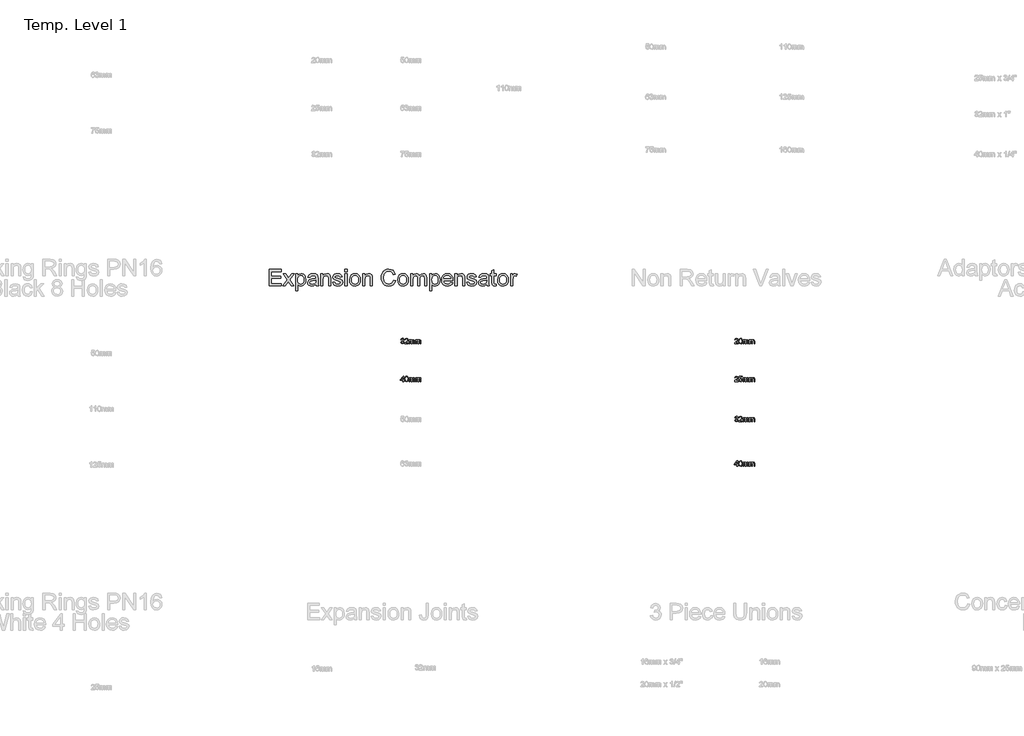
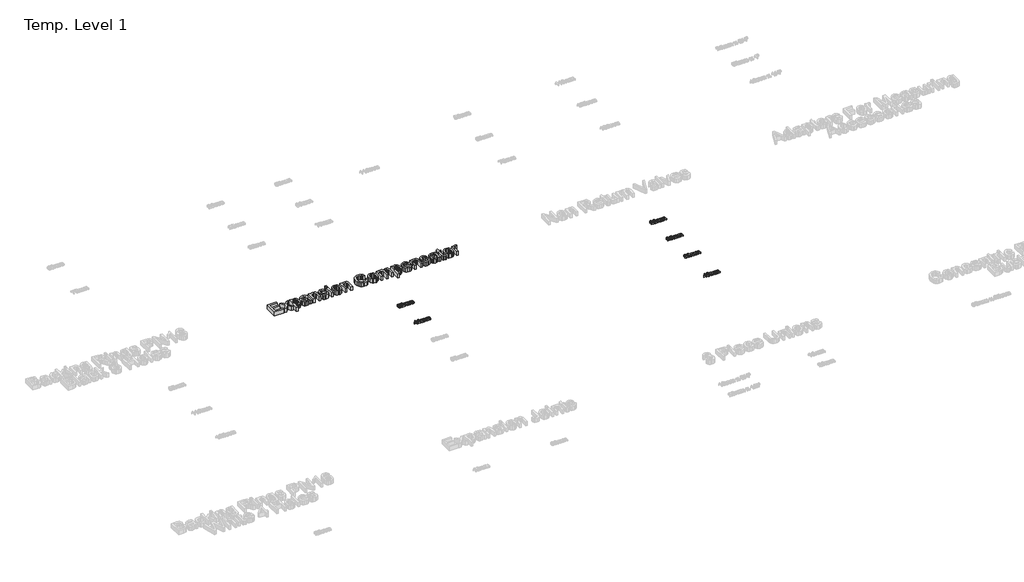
# One storey, part 16 of 62: 7 proxies.
"""IFC4 building model written with IfcOpenShell, lengths in millimetres."""

from ifc_helpers import new_model, si_unit, origin, origin_with_axes, place, context, project, spatial, polyline, outline, extrude, element, save

model = new_model("IFC4")

# Units and contexts
model_context = context("Model", 3, world=origin())
ifc_project = project(units=[si_unit("LENGTHUNIT", "METRE", prefix="MILLI")], contexts=[model_context])

# Site, building, storey
site = spatial("IfcSite", under=ifc_project)
building = spatial("IfcBuilding", under=site)
storey = spatial("IfcBuildingStorey", under=building, Name="Temp. Level 1", Elevation=0.0)

# Proxies
placement = place(None, origin())
element("IfcBuildingElementProxy", 1, Name="150mm Arial", ObjectType="150mm Arial", at=placement, inside=storey, context=model_context, shape_type="SweptSolid", body=[
    extrude(outline(polyline([(11314.9637904, -1070.198517), (11314.9637904, -922.5062093), (11421.1176365, -922.5062093), (11421.1176365, -940.9677478), (11333.4253288, -940.9677478), (11333.4253288, -984.8139016), (11416.5022519, -984.8139016), (11416.5022519, -1003.2754401), (11333.4253288, -1003.2754401), (11333.4253288, -1051.7369786), (11423.4253288, -1051.7369786), (11423.4253288, -1070.198517), (11314.9637904, -1070.198517)])), origin_with_axes(), (0.0, 0.0, 1.0), 50.0),
    extrude(outline(polyline([(11437.2714827, -1070.198517), (11476.7185981, -1015.6792862), (11439.579175, -961.7369786), (11461.7907135, -961.7369786), (11479.7113865, -987.698517), (11488.0767712, -999.9581324), (11495.3243673, -989.9340939), (11515.7330212, -961.7369786), (11537.9445596, -961.7369786), (11498.9301365, -1015.6792862), (11536.5022519, -1070.198517), (11514.2907135, -1070.198517), (11491.6825404, -1037.4220747), (11487.5359058, -1031.4364978), (11459.4830212, -1070.198517), (11437.2714827, -1070.198517)])), origin_with_axes(), (0.0, 0.0, 1.0), 50.0),
    extrude(outline(polyline([(11552.6560981, -1111.7369786), (11552.6560981, -961.7369786), (11571.1176365, -961.7369786), (11571.1176365, -979.8379401), (11583.8820596, -964.5314497), (11601.1176365, -959.4292862), (11613.6026125, -961.214142), (11624.5190788, -966.5687093), (11633.4073, -975.1684689), (11639.8075404, -986.6889016), (11644.9637904, -1015.1384209), (11643.5079611, -1030.9271829), (11639.1404731, -1045.0482766), (11632.00105, -1056.7850555), (11622.2294154, -1065.4208728), (11610.8487063, -1070.7348752), (11598.8820596, -1072.5062093), (11582.8183577, -1067.7646228), (11571.1176365, -1055.7754401), (11571.1176365, -1111.7369786), (11552.6560981, -1111.7369786)]), holes=[polyline([(11571.1176365, -1016.8331324), (11573.1143313, -1033.3836132), (11579.1044154, -1044.9581324), (11587.9430572, -1051.7730362), (11598.485425, -1054.0446709), (11609.1990668, -1051.6919064), (11618.2630692, -1044.6336132), (11624.4424563, -1032.6354161), (11626.5022519, -1015.4629401), (11624.4920356, -999.0026036), (11618.4613865, -987.2658247), (11609.6362663, -980.2345747), (11599.2426365, -977.8908247), (11588.8084418, -980.3833127), (11579.6452808, -987.8607766), (11573.2495476, -1000.0888415), (11571.1176365, -1016.8331324)])]), origin_with_axes(), (0.0, 0.0, 1.0), 50.0),
    extrude(outline(polyline([(11734.9637904, -1056.3523632), (11717.0611462, -1068.8643824), (11697.2835019, -1072.5062093), (11681.8553168, -1070.3157045), (11670.4746077, -1063.7441901), (11663.4568793, -1053.7652237), (11661.1176365, -1041.3523632), (11664.6512904, -1026.7489978), (11673.9361462, -1016.1480362), (11686.8628288, -1010.0903439), (11702.8363865, -1007.3139016), (11734.8556173, -1000.9677478), (11734.9637904, -996.8571709), (11733.6927567, -988.6179882), (11729.8796558, -983.2273632), (11721.3520115, -979.2249593), (11709.4710019, -977.8908247), (11690.7931173, -981.4425074), (11681.8868673, -994.0446709), (11663.4253288, -991.7369786), (11671.4121077, -973.7081324), (11687.4938385, -963.1432286), (11711.8508096, -959.4292862), (11734.2246077, -962.7105362), (11746.8628288, -970.9497189), (11752.5238865, -983.479767), (11753.4253288, -999.6336132), (11753.4253288, -1022.6023632), (11754.3628288, -1054.6756805), (11758.0407135, -1070.198517), (11739.579175, -1070.198517), (11734.9637904, -1056.3523632)]), holes=[polyline([(11734.9637904, -1019.4292862), (11705.1801365, -1025.0903439), (11689.2967231, -1028.0831324), (11682.1032135, -1032.9509209), (11679.579175, -1040.0542862), (11685.0779731, -1050.042267), (11701.2137904, -1054.0446709), (11719.891675, -1049.6276036), (11731.9349442, -1038.9364978), (11734.8556173, -1024.6576516), (11734.9637904, -1019.4292862)])]), origin_with_axes(), (0.0, 0.0, 1.0), 50.0),
    extrude(outline(polyline([(11778.8099442, -1070.198517), (11778.8099442, -961.7369786), (11797.2714827, -961.7369786), (11797.2714827, -976.8812093), (11811.3880692, -963.792267), (11830.6609058, -959.4292862), (11848.0948, -962.9449112), (11859.9938385, -972.1756805), (11865.5286942, -985.7514016), (11866.5022519, -1003.5999593), (11866.5022519, -1070.198517), (11848.0407135, -1070.198517), (11848.0407135, -1006.0879401), (11845.9133096, -989.7538055), (11838.3952808, -981.1179882), (11825.7210019, -977.8908247), (11814.9082014, -979.7027237), (11805.6909538, -985.1384209), (11799.3763505, -995.6402237), (11797.2714827, -1012.6504401), (11797.2714827, -1070.198517), (11778.8099442, -1070.198517)])), origin_with_axes(), (0.0, 0.0, 1.0), 50.0),
    extrude(outline(polyline([(11884.9637904, -1037.8908247), (11903.4253288, -1035.5831324), (11906.3369875, -1043.479767), (11911.9710019, -1049.2850555), (11931.5503288, -1054.0446709), (11950.3724442, -1049.6816901), (11956.5022519, -1039.4413055), (11950.3363865, -1031.1480362), (11931.3339827, -1025.8836132), (11903.5335019, -1016.8511612), (11891.4000885, -1006.3042862), (11887.2714827, -991.4124593), (11890.5887904, -977.6564497), (11899.6392712, -967.1456324), (11911.37605, -961.682892), (11927.2594635, -959.4292862), (11949.7234058, -963.0530843), (11964.0022519, -972.8607766), (11970.3484058, -989.4292862), (11951.8868673, -991.7369786), (11944.9457615, -981.5506805), (11928.7017712, -977.8908247), (11911.0335019, -981.3884209), (11905.7330212, -989.5374593), (11907.9325404, -994.9100555), (11914.8195596, -998.9845747), (11930.7210019, -1002.9148632), (11957.8183577, -1011.604767), (11970.4024923, -1021.448517), (11974.9637904, -1037.4941901), (11969.6092231, -1055.1624593), (11954.1585019, -1067.9809689), (11931.297925, -1072.5062093), (11912.6831413, -1070.3247189), (11899.0984058, -1063.7802478), (11890.0298962, -1052.9449112), (11884.9637904, -1037.8908247)])), origin_with_axes(), (0.0, 0.0, 1.0), 50.0),
    extrude(outline(polyline([(11995.7330212, -940.9677478), (11995.7330212, -922.5062093), (12014.1945596, -922.5062093), (12014.1945596, -940.9677478), (11995.7330212, -940.9677478)])), origin_with_axes(), (0.0, 0.0, 1.0), 50.0),
    extrude(outline(polyline([(11995.7330212, -1070.198517), (11995.7330212, -961.7369786), (12014.1945596, -961.7369786), (12014.1945596, -1070.198517), (11995.7330212, -1070.198517)])), origin_with_axes(), (0.0, 0.0, 1.0), 50.0),
    extrude(outline(polyline([(12037.2714827, -1015.9677478), (12041.2648721, -989.8169064), (12053.2450404, -971.4364978), (12068.0467231, -962.4310891), (12085.7690788, -959.4292862), (12105.1636101, -963.0846348), (12120.6548962, -974.0506805), (12130.8096438, -991.4620387), (12134.1945596, -1014.4533247), (12132.6981654, -1033.1041661), (12128.2089827, -1047.3018824), (12120.8577207, -1057.9343944), (12110.7750885, -1065.8896228), (12098.7994274, -1070.8520627), (12085.7690788, -1072.5062093), (12066.1401726, -1068.8643824), (12050.6669154, -1057.9389016), (12040.6203409, -1040.1624593), (12037.2714827, -1015.9677478)]), holes=[polyline([(12055.7330212, -1015.9316901), (12057.8694394, -1032.6399233), (12064.2786942, -1044.5434689), (12073.9241269, -1051.6693704), (12085.7690788, -1054.0446709), (12097.5599442, -1051.6558487), (12107.1873481, -1044.4893824), (12113.5966029, -1032.4280843), (12115.7330212, -1015.354767), (12113.5830813, -999.1333127), (12107.1332615, -987.3920266), (12097.4923361, -980.2661252), (12085.7690788, -977.8908247), (12073.9241269, -980.2571108), (12064.2786942, -987.3559689), (12057.8694394, -999.2324713), (12055.7330212, -1015.9316901)])]), origin_with_axes(), (0.0, 0.0, 1.0), 50.0),
    extrude(outline(polyline([(12154.9637904, -1070.198517), (12154.9637904, -961.7369786), (12173.4253288, -961.7369786), (12173.4253288, -976.8812093), (12187.5419154, -963.792267), (12206.8147519, -959.4292862), (12224.2486462, -962.9449112), (12236.1476846, -972.1756805), (12241.6825404, -985.7514016), (12242.6560981, -1003.5999593), (12242.6560981, -1070.198517), (12224.1945596, -1070.198517), (12224.1945596, -1006.0879401), (12222.0671558, -989.7538055), (12214.5491269, -981.1179882), (12201.8748481, -977.8908247), (12191.0620476, -979.7027237), (12181.8448, -985.1384209), (12175.5301966, -995.6402237), (12173.4253288, -1012.6504401), (12173.4253288, -1070.198517), (12154.9637904, -1070.198517)])), origin_with_axes(), (0.0, 0.0, 1.0), 50.0),
    extrude(outline(polyline([(12431.8868673, -1017.698517), (12450.3484058, -1022.4581324), (12441.829776, -1043.9710531), (12428.4613865, -1059.6876997), (12410.9012904, -1069.3015819), (12389.8075404, -1072.5062093), (12368.3937784, -1070.0813295), (12351.3880692, -1062.8066901), (12338.3532135, -1050.9346949), (12328.8520115, -1034.7177478), (12323.0512303, -1015.652243), (12321.1176365, -995.2345747), (12323.3036341, -973.699118), (12329.8616269, -955.1023632), (12340.4490668, -940.034755), (12354.7234058, -929.0867382), (12371.6524923, -922.4205723), (12390.204175, -920.198517), (12410.446062, -923.074118), (12427.1813385, -931.7009209), (12439.8871678, -945.5470747), (12448.0407135, -964.0807286), (12429.579175, -968.479767), (12423.1789346, -955.0167262), (12414.4349442, -945.7814497), (12403.2390308, -940.440404), (12389.4830212, -938.6600555), (12373.626651, -940.6342141), (12360.6008096, -946.5566901), (12350.7164947, -955.8054882), (12344.2847038, -967.7586132), (12339.579175, -995.198517), (12345.1500885, -1027.0014016), (12352.2714827, -1038.877904), (12362.4938385, -1047.3199112), (12374.7489466, -1052.363481), (12387.9685981, -1054.0446709), (12403.3787543, -1051.7550074), (12416.2198, -1044.886017), (12425.914812, -1033.5098151), (12431.8868673, -1017.698517)])), origin_with_axes(), (0.0, 0.0, 1.0), 50.0),
    extrude(outline(polyline([(12468.8099442, -1015.9677478), (12472.8033337, -989.8169064), (12484.7835019, -971.4364978), (12499.5851846, -962.4310891), (12517.3075404, -959.4292862), (12536.7020716, -963.0846348), (12552.1933577, -974.0506805), (12562.3481053, -991.4620387), (12565.7330212, -1014.4533247), (12564.2366269, -1033.1041661), (12559.7474442, -1047.3018824), (12552.3961822, -1057.9343944), (12542.31355, -1065.8896228), (12530.3378889, -1070.8520627), (12517.3075404, -1072.5062093), (12497.6786341, -1068.8643824), (12482.2053769, -1057.9389016), (12472.1588024, -1040.1624593), (12468.8099442, -1015.9677478)]), holes=[polyline([(12487.2714827, -1015.9316901), (12489.407901, -1032.6399233), (12495.8171558, -1044.5434689), (12505.4625885, -1051.6693704), (12517.3075404, -1054.0446709), (12529.0984058, -1051.6558487), (12538.7258096, -1044.4893824), (12545.1350644, -1032.4280843), (12547.2714827, -1015.354767), (12545.1215428, -999.1333127), (12538.6717231, -987.3920266), (12529.0307976, -980.2661252), (12517.3075404, -977.8908247), (12505.4625885, -980.2571108), (12495.8171558, -987.3559689), (12489.407901, -999.2324713), (12487.2714827, -1015.9316901)])]), origin_with_axes(), (0.0, 0.0, 1.0), 50.0),
    extrude(outline(polyline([(12586.5022519, -1070.198517), (12586.5022519, -961.7369786), (12604.9637904, -961.7369786), (12604.9637904, -979.5855362), (12617.6560981, -964.964142), (12635.7210019, -959.4292862), (12645.9884298, -960.8400435), (12654.2185981, -965.0723151), (12664.3868673, -980.8836132), (12678.7919154, -964.792868), (12696.9830212, -959.4292862), (12710.8607255, -961.660356), (12721.1236462, -968.3535651), (12727.4652928, -979.6892021), (12729.579175, -995.8475555), (12729.579175, -1070.198517), (12711.1176365, -1070.198517), (12711.1176365, -1003.7802478), (12709.4048962, -988.3655843), (12703.2029731, -980.7754401), (12692.6560981, -977.8908247), (12682.6545957, -979.7387814), (12674.50105, -985.2826516), (12669.0788745, -994.9010411), (12667.2714827, -1008.9725555), (12667.2714827, -1070.198517), (12648.8099442, -1070.198517), (12648.8099442, -1001.7249593), (12644.5371077, -983.8403439), (12638.8985861, -979.3782045), (12630.5286942, -977.8908247), (12616.8628288, -981.8571709), (12607.7762904, -993.4677478), (12604.9637904, -1015.4989978), (12604.9637904, -1070.198517), (12586.5022519, -1070.198517)])), origin_with_axes(), (0.0, 0.0, 1.0), 50.0),
    extrude(outline(polyline([(12757.2714827, -1111.7369786), (12757.2714827, -961.7369786), (12775.7330212, -961.7369786), (12775.7330212, -979.8379401), (12788.4974442, -964.5314497), (12805.7330212, -959.4292862), (12818.2179971, -961.214142), (12829.1344635, -966.5687093), (12838.0226846, -975.1684689), (12844.422925, -986.6889016), (12849.579175, -1015.1384209), (12848.1233457, -1030.9271829), (12843.7558577, -1045.0482766), (12836.6164346, -1056.7850555), (12826.8448, -1065.4208728), (12815.4640909, -1070.7348752), (12803.4974442, -1072.5062093), (12787.4337423, -1067.7646228), (12775.7330212, -1055.7754401), (12775.7330212, -1111.7369786), (12757.2714827, -1111.7369786)]), holes=[polyline([(12775.7330212, -1016.8331324), (12777.7297159, -1033.3836132), (12783.7198, -1044.9581324), (12792.5584418, -1051.7730362), (12803.1008096, -1054.0446709), (12813.8144514, -1051.6919064), (12822.8784538, -1044.6336132), (12829.0578409, -1032.6354161), (12831.1176365, -1015.4629401), (12829.1074202, -999.0026036), (12823.0767712, -987.2658247), (12814.251651, -980.2345747), (12803.8580212, -977.8908247), (12793.4238264, -980.3833127), (12784.2606654, -987.8607766), (12777.8649322, -1000.0888415), (12775.7330212, -1016.8331324)])]), origin_with_axes(), (0.0, 0.0, 1.0), 50.0),
    extrude(outline(polyline([(12946.2859058, -1037.8908247), (12964.3868673, -1040.198517), (12957.8649322, -1053.8373391), (12947.4577808, -1064.0326516), (12933.399788, -1070.3878199), (12915.9253288, -1072.5062093), (12894.2636702, -1068.8508608), (12877.5960019, -1057.8848151), (12866.9679971, -1040.3202117), (12863.4253288, -1016.8691901), (12867.0040548, -992.6294064), (12877.7402327, -974.5014016), (12894.1825404, -963.1973151), (12914.8796558, -959.4292862), (12934.9322399, -963.1883007), (12950.9553769, -974.4653439), (12961.461687, -992.5572911), (12964.9637904, -1016.761017), (12964.8556173, -1021.7369786), (12881.8868673, -1021.7369786), (12885.0824803, -1035.5560891), (12892.5058577, -1045.7153439), (12903.2194995, -1051.9623391), (12916.2859058, -1054.0446709), (12934.3868673, -1050.1864978), (12946.2859058, -1037.8908247)]), holes=[polyline([(12881.8868673, -1003.2754401), (12946.5022519, -1003.2754401), (12944.0052567, -993.5218343), (12939.110425, -986.5446709), (12928.3472038, -980.0542862), (12914.8075404, -977.8908247), (12902.3631293, -979.6170867), (12892.0731654, -984.7958728), (12884.9202207, -992.8682887), (12881.8868673, -1003.2754401)])]), origin_with_axes(), (0.0, 0.0, 1.0), 50.0),
    extrude(outline(polyline([(12983.4253288, -1070.198517), (12983.4253288, -961.7369786), (13001.8868673, -961.7369786), (13001.8868673, -976.8812093), (13016.0034538, -963.792267), (13035.2762904, -959.4292862), (13052.7101846, -962.9449112), (13064.6092231, -972.1756805), (13070.1440788, -985.7514016), (13071.1176365, -1003.5999593), (13071.1176365, -1070.198517), (13052.6560981, -1070.198517), (13052.6560981, -1006.0879401), (13050.5286942, -989.7538055), (13043.0106654, -981.1179882), (13030.3363865, -977.8908247), (13019.5235861, -979.7027237), (13010.3063385, -985.1384209), (13003.9917351, -995.6402237), (13001.8868673, -1012.6504401), (13001.8868673, -1070.198517), (12983.4253288, -1070.198517)])), origin_with_axes(), (0.0, 0.0, 1.0), 50.0),
    extrude(outline(polyline([(13089.579175, -1037.8908247), (13108.0407135, -1035.5831324), (13110.9523721, -1043.479767), (13116.5863865, -1049.2850555), (13136.1657135, -1054.0446709), (13154.9878288, -1049.6816901), (13161.1176365, -1039.4413055), (13154.9517712, -1031.1480362), (13135.9493673, -1025.8836132), (13108.1488865, -1016.8511612), (13096.0154731, -1006.3042862), (13091.8868673, -991.4124593), (13095.204175, -977.6564497), (13104.2546558, -967.1456324), (13115.9914346, -961.682892), (13131.8748481, -959.4292862), (13154.3387904, -963.0530843), (13168.6176365, -972.8607766), (13174.9637904, -989.4292862), (13156.5022519, -991.7369786), (13149.5611462, -981.5506805), (13133.3171558, -977.8908247), (13115.6488865, -981.3884209), (13110.3484058, -989.5374593), (13112.547925, -994.9100555), (13119.4349442, -998.9845747), (13135.3363865, -1002.9148632), (13162.4337423, -1011.604767), (13175.0178769, -1021.448517), (13179.579175, -1037.4941901), (13174.2246077, -1055.1624593), (13158.7738865, -1067.9809689), (13135.9133096, -1072.5062093), (13117.298526, -1070.3247189), (13103.7137904, -1063.7802478), (13094.6452808, -1052.9449112), (13089.579175, -1037.8908247)])), origin_with_axes(), (0.0, 0.0, 1.0), 50.0),
    extrude(outline(polyline([(13269.579175, -1056.3523632), (13251.6765308, -1068.8643824), (13231.8988865, -1072.5062093), (13216.4707014, -1070.3157045), (13205.0899923, -1063.7441901), (13198.0722639, -1053.7652237), (13195.7330212, -1041.3523632), (13199.266675, -1026.7489978), (13208.5515308, -1016.1480362), (13221.4782135, -1010.0903439), (13237.4517712, -1007.3139016), (13269.4710019, -1000.9677478), (13269.579175, -996.8571709), (13268.3081413, -988.6179882), (13264.4950404, -983.2273632), (13255.9673962, -979.2249593), (13244.0863865, -977.8908247), (13225.4085019, -981.4425074), (13216.5022519, -994.0446709), (13198.0407135, -991.7369786), (13206.0274923, -973.7081324), (13222.1092231, -963.1432286), (13246.4661942, -959.4292862), (13268.8399923, -962.7105362), (13281.4782135, -970.9497189), (13287.1392712, -983.479767), (13288.0407135, -999.6336132), (13288.0407135, -1022.6023632), (13288.9782135, -1054.6756805), (13292.6560981, -1070.198517), (13274.1945596, -1070.198517), (13269.579175, -1056.3523632)]), holes=[polyline([(13269.579175, -1019.4292862), (13239.7955212, -1025.0903439), (13223.9121077, -1028.0831324), (13216.7185981, -1032.9509209), (13214.1945596, -1040.0542862), (13219.6933577, -1050.042267), (13235.829175, -1054.0446709), (13254.5070596, -1049.6276036), (13266.5503288, -1038.9364978), (13269.4710019, -1024.6576516), (13269.579175, -1019.4292862)])]), origin_with_axes(), (0.0, 0.0, 1.0), 50.0),
    extrude(outline(polyline([(13352.6560981, -1054.8018824), (13354.9637904, -1070.7393824), (13341.1536942, -1072.5062093), (13325.6849442, -1069.4413055), (13317.9685981, -1061.4004401), (13315.7330212, -1040.4509209), (13315.7330212, -980.198517), (13301.8868673, -980.198517), (13301.8868673, -961.7369786), (13315.7330212, -961.7369786), (13315.7330212, -935.3788055), (13334.1945596, -924.5254401), (13334.1945596, -961.7369786), (13352.6560981, -961.7369786), (13352.6560981, -980.198517), (13334.1945596, -980.198517), (13334.1945596, -1039.9100555), (13335.1681173, -1049.4292862), (13338.3231654, -1052.8006805), (13344.6152327, -1054.0446709), (13352.6560981, -1054.8018824)])), origin_with_axes(), (0.0, 0.0, 1.0), 50.0),
    extrude(outline(polyline([(13366.5022519, -1015.9677478), (13370.4956413, -989.8169064), (13382.4758096, -971.4364978), (13397.2774923, -962.4310891), (13414.9998481, -959.4292862), (13434.3943793, -963.0846348), (13449.8856654, -974.0506805), (13460.040413, -991.4620387), (13463.4253288, -1014.4533247), (13461.9289346, -1033.1041661), (13457.4397519, -1047.3018824), (13450.0884899, -1057.9343944), (13440.0058577, -1065.8896228), (13428.0301966, -1070.8520627), (13414.9998481, -1072.5062093), (13395.3709418, -1068.8643824), (13379.8976846, -1057.9389016), (13369.8511101, -1040.1624593), (13366.5022519, -1015.9677478)]), holes=[polyline([(13384.9637904, -1015.9316901), (13387.1002087, -1032.6399233), (13393.5094635, -1044.5434689), (13403.1548962, -1051.6693704), (13414.9998481, -1054.0446709), (13426.7907135, -1051.6558487), (13436.4181173, -1044.4893824), (13442.8273721, -1032.4280843), (13444.9637904, -1015.354767), (13442.8138505, -999.1333127), (13436.3640308, -987.3920266), (13426.7231053, -980.2661252), (13414.9998481, -977.8908247), (13403.1548962, -980.2571108), (13393.5094635, -987.3559689), (13387.1002087, -999.2324713), (13384.9637904, -1015.9316901)])]), origin_with_axes(), (0.0, 0.0, 1.0), 50.0),
    extrude(outline(polyline([(13484.1945596, -1070.198517), (13484.1945596, -961.7369786), (13500.3484058, -961.7369786), (13500.3484058, -977.7826516), (13511.8147519, -962.9989978), (13523.3532135, -959.4292862), (13541.8868673, -965.1264016), (13535.7210019, -981.6768824), (13522.7402327, -977.8908247), (13512.3015308, -981.5326516), (13505.6488865, -991.6288055), (13502.6560981, -1013.1913055), (13502.6560981, -1070.198517), (13484.1945596, -1070.198517)])), origin_with_axes(), (0.0, 0.0, 1.0), 50.0),
])
element("IfcBuildingElementProxy", 2, Name="50mm Arial", ObjectType="50mm Arial", at=placement, inside=storey, context=model_context, shape_type="SweptSolid", body=[
    extrude(outline(polyline([(12495.3245939, -1577.1215939), (12501.4784401, -1576.3523632), (12504.8738727, -1582.8307286), (12511.2260362, -1584.8139016), (12518.7019977, -1582.0855362), (12521.4784401, -1575.3307286), (12518.7260362, -1568.9665459), (12511.7308439, -1566.448517), (12507.4159401, -1567.1215939), (12508.1010362, -1560.9677478), (12516.0697862, -1559.2730362), (12519.1707477, -1553.8403439), (12516.9231516, -1549.026642), (12511.1298824, -1547.1215939), (12505.2644977, -1549.0446709), (12502.2476708, -1554.8139016), (12496.0938247, -1554.0446709), (12501.1298824, -1544.3932286), (12510.9135362, -1540.9677478), (12518.3354112, -1542.6564497), (12523.5277189, -1547.2718343), (12525.3245939, -1553.479767), (12523.6178631, -1559.1528439), (12518.5697862, -1563.2273632), (12525.276517, -1567.4340939), (12527.6322862, -1575.4389016), (12522.9207477, -1586.448517), (12511.0096901, -1590.9677478), (12500.2164208, -1587.1095747), (12495.3245939, -1577.1215939)])), origin_with_axes(), (0.0, 0.0, 1.0), 15.0),
    extrude(outline(polyline([(12564.5553631, -1584.0446709), (12564.5553631, -1590.198517), (12532.2476708, -1590.198517), (12532.9087285, -1585.9557286), (12536.6467093, -1579.4232766), (12544.3510362, -1572.2898632), (12554.9760362, -1562.0374593), (12557.6322862, -1555.0663055), (12555.1262766, -1549.4232766), (12548.5818054, -1547.1215939), (12541.760892, -1549.3691901), (12539.1707477, -1555.5831324), (12533.0169016, -1554.8139016), (12537.7344497, -1544.5134209), (12548.714017, -1540.9677478), (12559.729642, -1544.9100555), (12563.7861324, -1554.6937093), (12562.6923824, -1560.5290459), (12559.0565651, -1566.5626997), (12550.2404593, -1574.9941901), (12543.1611324, -1580.9136612), (12540.3846901, -1584.0446709), (12564.5553631, -1584.0446709)])), origin_with_axes(), (0.0, 0.0, 1.0), 15.0),
    extrude(outline(polyline([(12572.2476708, -1590.198517), (12572.2476708, -1554.0446709), (12578.401517, -1554.0446709), (12578.401517, -1559.9941901), (12582.6322862, -1555.120392), (12588.6539208, -1553.2754401), (12594.8197862, -1555.1564497), (12598.2092093, -1560.4268824), (12603.010892, -1555.0633007), (12609.0745939, -1553.2754401), (12617.1214689, -1556.2501997), (12619.9399785, -1565.4148632), (12619.9399785, -1590.198517), (12613.7861324, -1590.198517), (12613.7861324, -1568.0590939), (12613.2152189, -1562.9208728), (12611.1479112, -1560.3908247), (12607.6322862, -1559.4292862), (12601.5806035, -1561.8932286), (12599.1707477, -1569.7898632), (12599.1707477, -1590.198517), (12593.0169016, -1590.198517), (12593.0169016, -1567.3739978), (12591.5926227, -1561.4124593), (12586.9231516, -1559.4292862), (12582.3678631, -1560.7514016), (12579.339017, -1564.6215939), (12578.401517, -1571.9653439), (12578.401517, -1590.198517), (12572.2476708, -1590.198517)])), origin_with_axes(), (0.0, 0.0, 1.0), 15.0),
    extrude(outline(polyline([(12629.1707477, -1590.198517), (12629.1707477, -1554.0446709), (12635.3245939, -1554.0446709), (12635.3245939, -1559.9941901), (12639.5553631, -1555.120392), (12645.5769977, -1553.2754401), (12651.7428631, -1555.1564497), (12655.1322862, -1560.4268824), (12659.9339689, -1555.0633007), (12665.9976708, -1553.2754401), (12674.0445458, -1556.2501997), (12676.8630554, -1565.4148632), (12676.8630554, -1590.198517), (12670.7092093, -1590.198517), (12670.7092093, -1568.0590939), (12670.1382958, -1562.9208728), (12668.0709881, -1560.3908247), (12664.5553631, -1559.4292862), (12658.5036804, -1561.8932286), (12656.0938247, -1569.7898632), (12656.0938247, -1590.198517), (12649.9399785, -1590.198517), (12649.9399785, -1567.3739978), (12648.5156997, -1561.4124593), (12643.8462285, -1559.4292862), (12639.2909401, -1560.7514016), (12636.2620939, -1564.6215939), (12635.3245939, -1571.9653439), (12635.3245939, -1590.198517), (12629.1707477, -1590.198517)])), origin_with_axes(), (0.0, 0.0, 1.0), 15.0),
])
element("IfcBuildingElementProxy", 3, Name="50mm Arial", ObjectType="50mm Arial", at=placement, inside=storey, context=model_context, shape_type="SweptSolid", body=[
    extrude(outline(polyline([(12515.3245939, -1930.198517), (12515.3245939, -1918.6600555), (12493.0169016, -1918.6600555), (12493.0169016, -1912.5062093), (12516.8630554, -1881.7369786), (12521.4784401, -1881.7369786), (12521.4784401, -1912.5062093), (12527.6322862, -1912.5062093), (12527.6322862, -1918.6600555), (12521.4784401, -1918.6600555), (12521.4784401, -1930.198517), (12515.3245939, -1930.198517)]), holes=[polyline([(12515.3245939, -1912.5062093), (12515.3245939, -1893.4917862), (12500.589017, -1912.5062093), (12515.3245939, -1912.5062093)])]), origin_with_axes(), (0.0, 0.0, 1.0), 15.0),
    extrude(outline(polyline([(12533.0169016, -1905.979767), (12534.8257958, -1891.8151036), (12540.198392, -1883.6480362), (12549.1707477, -1880.9677478), (12556.3582477, -1882.5542862), (12561.3221901, -1887.1276036), (12564.2068054, -1894.4112574), (12565.3245939, -1905.979767), (12563.5337285, -1920.0843343), (12558.1791612, -1928.2694305), (12549.1707477, -1930.9677478), (12537.9207477, -1926.2802478), (12534.2428631, -1917.9539257), (12533.0169016, -1905.979767)]), holes=[polyline([(12539.1707477, -1905.9677478), (12542.0553631, -1921.2501997), (12549.1707477, -1924.8139016), (12556.2861324, -1921.2381805), (12559.1707477, -1905.9677478), (12556.3822862, -1890.8595747), (12549.0986324, -1887.1215939), (12542.151517, -1890.4148632), (12539.1707477, -1905.9677478)])]), origin_with_axes(), (0.0, 0.0, 1.0), 15.0),
    extrude(outline(polyline([(12572.2476708, -1930.198517), (12572.2476708, -1894.0446709), (12578.401517, -1894.0446709), (12578.401517, -1899.9941901), (12582.6322862, -1895.120392), (12588.6539208, -1893.2754401), (12594.8197862, -1895.1564497), (12598.2092093, -1900.4268824), (12603.010892, -1895.0633007), (12609.0745939, -1893.2754401), (12617.1214689, -1896.2501997), (12619.9399785, -1905.4148632), (12619.9399785, -1930.198517), (12613.7861324, -1930.198517), (12613.7861324, -1908.0590939), (12613.2152189, -1902.9208728), (12611.1479112, -1900.3908247), (12607.6322862, -1899.4292862), (12601.5806035, -1901.8932286), (12599.1707477, -1909.7898632), (12599.1707477, -1930.198517), (12593.0169016, -1930.198517), (12593.0169016, -1907.3739978), (12591.5926227, -1901.4124593), (12586.9231516, -1899.4292862), (12582.3678631, -1900.7514016), (12579.339017, -1904.6215939), (12578.401517, -1911.9653439), (12578.401517, -1930.198517), (12572.2476708, -1930.198517)])), origin_with_axes(), (0.0, 0.0, 1.0), 15.0),
    extrude(outline(polyline([(12629.1707477, -1930.198517), (12629.1707477, -1894.0446709), (12635.3245939, -1894.0446709), (12635.3245939, -1899.9941901), (12639.5553631, -1895.120392), (12645.5769977, -1893.2754401), (12651.7428631, -1895.1564497), (12655.1322862, -1900.4268824), (12659.9339689, -1895.0633007), (12665.9976708, -1893.2754401), (12674.0445458, -1896.2501997), (12676.8630554, -1905.4148632), (12676.8630554, -1930.198517), (12670.7092093, -1930.198517), (12670.7092093, -1908.0590939), (12670.1382958, -1902.9208728), (12668.0709881, -1900.3908247), (12664.5553631, -1899.4292862), (12658.5036804, -1901.8932286), (12656.0938247, -1909.7898632), (12656.0938247, -1930.198517), (12649.9399785, -1930.198517), (12649.9399785, -1907.3739978), (12648.5156997, -1901.4124593), (12643.8462285, -1899.4292862), (12639.2909401, -1900.7514016), (12636.2620939, -1904.6215939), (12635.3245939, -1911.9653439), (12635.3245939, -1930.198517), (12629.1707477, -1930.198517)])), origin_with_axes(), (0.0, 0.0, 1.0), 15.0),
])
element("IfcBuildingElementProxy", 4, Name="50mm Arial", ObjectType="50mm Arial", at=placement, inside=storey, context=model_context, shape_type="SweptSolid", body=[
    extrude(outline(polyline([(15526.8630554, -1584.0446709), (15526.8630554, -1590.198517), (15494.5553631, -1590.198517), (15495.2164208, -1585.9557286), (15498.9544016, -1579.4232766), (15506.6587285, -1572.2898632), (15517.2837285, -1562.0374593), (15519.9399785, -1555.0663055), (15517.4339689, -1549.4232766), (15510.8894977, -1547.1215939), (15504.0685843, -1549.3691901), (15501.4784401, -1555.5831324), (15495.3245939, -1554.8139016), (15500.042142, -1544.5134209), (15511.0217093, -1540.9677478), (15522.0373343, -1544.9100555), (15526.0938247, -1554.6937093), (15525.0000747, -1560.5290459), (15521.3642574, -1566.5626997), (15512.5481516, -1574.9941901), (15505.4688247, -1580.9136612), (15502.6923824, -1584.0446709), (15526.8630554, -1584.0446709)])), origin_with_axes(), (0.0, 0.0, 1.0), 15.0),
    extrude(outline(polyline([(15533.0169016, -1565.979767), (15534.8257958, -1551.8151036), (15540.198392, -1543.6480362), (15549.1707477, -1540.9677478), (15556.3582477, -1542.5542862), (15561.3221901, -1547.1276036), (15564.2068054, -1554.4112574), (15565.3245939, -1565.979767), (15563.5337285, -1580.0843343), (15558.1791612, -1588.2694305), (15549.1707477, -1590.9677478), (15537.9207477, -1586.2802478), (15534.2428631, -1577.9539257), (15533.0169016, -1565.979767)]), holes=[polyline([(15539.1707477, -1565.9677478), (15542.0553631, -1581.2501997), (15549.1707477, -1584.8139016), (15556.2861324, -1581.2381805), (15559.1707477, -1565.9677478), (15556.3822862, -1550.8595747), (15549.0986324, -1547.1215939), (15542.151517, -1550.4148632), (15539.1707477, -1565.9677478)])]), origin_with_axes(), (0.0, 0.0, 1.0), 15.0),
    extrude(outline(polyline([(15572.2476708, -1590.198517), (15572.2476708, -1554.0446709), (15578.401517, -1554.0446709), (15578.401517, -1559.9941901), (15582.6322862, -1555.120392), (15588.6539208, -1553.2754401), (15594.8197862, -1555.1564497), (15598.2092093, -1560.4268824), (15603.010892, -1555.0633007), (15609.0745939, -1553.2754401), (15617.1214689, -1556.2501997), (15619.9399785, -1565.4148632), (15619.9399785, -1590.198517), (15613.7861324, -1590.198517), (15613.7861324, -1568.0590939), (15613.2152189, -1562.9208728), (15611.1479112, -1560.3908247), (15607.6322862, -1559.4292862), (15601.5806035, -1561.8932286), (15599.1707477, -1569.7898632), (15599.1707477, -1590.198517), (15593.0169016, -1590.198517), (15593.0169016, -1567.3739978), (15591.5926227, -1561.4124593), (15586.9231516, -1559.4292862), (15582.3678631, -1560.7514016), (15579.339017, -1564.6215939), (15578.401517, -1571.9653439), (15578.401517, -1590.198517), (15572.2476708, -1590.198517)])), origin_with_axes(), (0.0, 0.0, 1.0), 15.0),
    extrude(outline(polyline([(15629.1707477, -1590.198517), (15629.1707477, -1554.0446709), (15635.3245939, -1554.0446709), (15635.3245939, -1559.9941901), (15639.5553631, -1555.120392), (15645.5769977, -1553.2754401), (15651.7428631, -1555.1564497), (15655.1322862, -1560.4268824), (15659.9339689, -1555.0633007), (15665.9976708, -1553.2754401), (15674.0445458, -1556.2501997), (15676.8630554, -1565.4148632), (15676.8630554, -1590.198517), (15670.7092093, -1590.198517), (15670.7092093, -1568.0590939), (15670.1382958, -1562.9208728), (15668.0709881, -1560.3908247), (15664.5553631, -1559.4292862), (15658.5036804, -1561.8932286), (15656.0938247, -1569.7898632), (15656.0938247, -1590.198517), (15649.9399785, -1590.198517), (15649.9399785, -1567.3739978), (15648.5156997, -1561.4124593), (15643.8462285, -1559.4292862), (15639.2909401, -1560.7514016), (15636.2620939, -1564.6215939), (15635.3245939, -1571.9653439), (15635.3245939, -1590.198517), (15629.1707477, -1590.198517)])), origin_with_axes(), (0.0, 0.0, 1.0), 15.0),
])
element("IfcBuildingElementProxy", 5, Name="50mm Arial", ObjectType="50mm Arial", at=placement, inside=storey, context=model_context, shape_type="SweptSolid", body=[
    extrude(outline(polyline([(15526.8630554, -1924.0446709), (15526.8630554, -1930.198517), (15494.5553631, -1930.198517), (15495.2164208, -1925.9557286), (15498.9544016, -1919.4232766), (15506.6587285, -1912.2898632), (15517.2837285, -1902.0374593), (15519.9399785, -1895.0663055), (15517.4339689, -1889.4232766), (15510.8894977, -1887.1215939), (15504.0685843, -1889.3691901), (15501.4784401, -1895.5831324), (15495.3245939, -1894.8139016), (15500.042142, -1884.5134209), (15511.0217093, -1880.9677478), (15522.0373343, -1884.9100555), (15526.0938247, -1894.6937093), (15525.0000747, -1900.5290459), (15521.3642574, -1906.5626997), (15512.5481516, -1914.9941901), (15505.4688247, -1920.9136612), (15502.6923824, -1924.0446709), (15526.8630554, -1924.0446709)])), origin_with_axes(), (0.0, 0.0, 1.0), 15.0),
    extrude(outline(polyline([(15533.0169016, -1917.1215939), (15539.1707477, -1916.3523632), (15542.2717093, -1922.6925074), (15548.7019977, -1924.8139016), (15556.4183439, -1921.8631805), (15559.1707477, -1914.0326516), (15556.5926227, -1906.7249593), (15548.7981516, -1904.0446709), (15543.3955074, -1905.1143824), (15539.9399785, -1907.8908247), (15533.7861324, -1907.1215939), (15539.1707477, -1881.7369786), (15563.0169016, -1881.7369786), (15563.0169016, -1887.8908247), (15544.1467093, -1887.8908247), (15541.5144977, -1901.448517), (15550.5169016, -1897.8908247), (15561.0397381, -1902.3018824), (15565.3245939, -1913.6480362), (15561.4664208, -1925.0663055), (15555.9255554, -1929.4923872), (15548.6779593, -1930.9677478), (15537.8185843, -1927.1756805), (15533.0169016, -1917.1215939)])), origin_with_axes(), (0.0, 0.0, 1.0), 15.0),
    extrude(outline(polyline([(15572.2476708, -1930.198517), (15572.2476708, -1894.0446709), (15578.401517, -1894.0446709), (15578.401517, -1899.9941901), (15582.6322862, -1895.120392), (15588.6539208, -1893.2754401), (15594.8197862, -1895.1564497), (15598.2092093, -1900.4268824), (15603.010892, -1895.0633007), (15609.0745939, -1893.2754401), (15617.1214689, -1896.2501997), (15619.9399785, -1905.4148632), (15619.9399785, -1930.198517), (15613.7861324, -1930.198517), (15613.7861324, -1908.0590939), (15613.2152189, -1902.9208728), (15611.1479112, -1900.3908247), (15607.6322862, -1899.4292862), (15601.5806035, -1901.8932286), (15599.1707477, -1909.7898632), (15599.1707477, -1930.198517), (15593.0169016, -1930.198517), (15593.0169016, -1907.3739978), (15591.5926227, -1901.4124593), (15586.9231516, -1899.4292862), (15582.3678631, -1900.7514016), (15579.339017, -1904.6215939), (15578.401517, -1911.9653439), (15578.401517, -1930.198517), (15572.2476708, -1930.198517)])), origin_with_axes(), (0.0, 0.0, 1.0), 15.0),
    extrude(outline(polyline([(15629.1707477, -1930.198517), (15629.1707477, -1894.0446709), (15635.3245939, -1894.0446709), (15635.3245939, -1899.9941901), (15639.5553631, -1895.120392), (15645.5769977, -1893.2754401), (15651.7428631, -1895.1564497), (15655.1322862, -1900.4268824), (15659.9339689, -1895.0633007), (15665.9976708, -1893.2754401), (15674.0445458, -1896.2501997), (15676.8630554, -1905.4148632), (15676.8630554, -1930.198517), (15670.7092093, -1930.198517), (15670.7092093, -1908.0590939), (15670.1382958, -1902.9208728), (15668.0709881, -1900.3908247), (15664.5553631, -1899.4292862), (15658.5036804, -1901.8932286), (15656.0938247, -1909.7898632), (15656.0938247, -1930.198517), (15649.9399785, -1930.198517), (15649.9399785, -1907.3739978), (15648.5156997, -1901.4124593), (15643.8462285, -1899.4292862), (15639.2909401, -1900.7514016), (15636.2620939, -1904.6215939), (15635.3245939, -1911.9653439), (15635.3245939, -1930.198517), (15629.1707477, -1930.198517)])), origin_with_axes(), (0.0, 0.0, 1.0), 15.0),
])
element("IfcBuildingElementProxy", 6, Name="50mm Arial", ObjectType="50mm Arial", at=placement, inside=storey, context=model_context, shape_type="SweptSolid", body=[
    extrude(outline(polyline([(15495.3245939, -2277.1215939), (15501.4784401, -2276.3523632), (15504.8738727, -2282.8307286), (15511.2260362, -2284.8139016), (15518.7019977, -2282.0855362), (15521.4784401, -2275.3307286), (15518.7260362, -2268.9665459), (15511.7308439, -2266.448517), (15507.4159401, -2267.1215939), (15508.1010362, -2260.9677478), (15516.0697862, -2259.2730362), (15519.1707477, -2253.8403439), (15516.9231516, -2249.026642), (15511.1298824, -2247.1215939), (15505.2644977, -2249.0446709), (15502.2476708, -2254.8139016), (15496.0938247, -2254.0446709), (15501.1298824, -2244.3932286), (15510.9135362, -2240.9677478), (15518.3354112, -2242.6564497), (15523.5277189, -2247.2718343), (15525.3245939, -2253.479767), (15523.6178631, -2259.1528439), (15518.5697862, -2263.2273632), (15525.276517, -2267.4340939), (15527.6322862, -2275.4389016), (15522.9207477, -2286.448517), (15511.0096901, -2290.9677478), (15500.2164208, -2287.1095747), (15495.3245939, -2277.1215939)])), origin_with_axes(), (0.0, 0.0, 1.0), 15.0),
    extrude(outline(polyline([(15564.5553631, -2284.0446709), (15564.5553631, -2290.198517), (15532.2476708, -2290.198517), (15532.9087285, -2285.9557286), (15536.6467093, -2279.4232766), (15544.3510362, -2272.2898632), (15554.9760362, -2262.0374593), (15557.6322862, -2255.0663055), (15555.1262766, -2249.4232766), (15548.5818054, -2247.1215939), (15541.760892, -2249.3691901), (15539.1707477, -2255.5831324), (15533.0169016, -2254.8139016), (15537.7344497, -2244.5134209), (15548.714017, -2240.9677478), (15559.729642, -2244.9100555), (15563.7861324, -2254.6937093), (15562.6923824, -2260.5290459), (15559.0565651, -2266.5626997), (15550.2404593, -2274.9941901), (15543.1611324, -2280.9136612), (15540.3846901, -2284.0446709), (15564.5553631, -2284.0446709)])), origin_with_axes(), (0.0, 0.0, 1.0), 15.0),
    extrude(outline(polyline([(15572.2476708, -2290.198517), (15572.2476708, -2254.0446709), (15578.401517, -2254.0446709), (15578.401517, -2259.9941901), (15582.6322862, -2255.120392), (15588.6539208, -2253.2754401), (15594.8197862, -2255.1564497), (15598.2092093, -2260.4268824), (15603.010892, -2255.0633007), (15609.0745939, -2253.2754401), (15617.1214689, -2256.2501997), (15619.9399785, -2265.4148632), (15619.9399785, -2290.198517), (15613.7861324, -2290.198517), (15613.7861324, -2268.0590939), (15613.2152189, -2262.9208728), (15611.1479112, -2260.3908247), (15607.6322862, -2259.4292862), (15601.5806035, -2261.8932286), (15599.1707477, -2269.7898632), (15599.1707477, -2290.198517), (15593.0169016, -2290.198517), (15593.0169016, -2267.3739978), (15591.5926227, -2261.4124593), (15586.9231516, -2259.4292862), (15582.3678631, -2260.7514016), (15579.339017, -2264.6215939), (15578.401517, -2271.9653439), (15578.401517, -2290.198517), (15572.2476708, -2290.198517)])), origin_with_axes(), (0.0, 0.0, 1.0), 15.0),
    extrude(outline(polyline([(15629.1707477, -2290.198517), (15629.1707477, -2254.0446709), (15635.3245939, -2254.0446709), (15635.3245939, -2259.9941901), (15639.5553631, -2255.120392), (15645.5769977, -2253.2754401), (15651.7428631, -2255.1564497), (15655.1322862, -2260.4268824), (15659.9339689, -2255.0633007), (15665.9976708, -2253.2754401), (15674.0445458, -2256.2501997), (15676.8630554, -2265.4148632), (15676.8630554, -2290.198517), (15670.7092093, -2290.198517), (15670.7092093, -2268.0590939), (15670.1382958, -2262.9208728), (15668.0709881, -2260.3908247), (15664.5553631, -2259.4292862), (15658.5036804, -2261.8932286), (15656.0938247, -2269.7898632), (15656.0938247, -2290.198517), (15649.9399785, -2290.198517), (15649.9399785, -2267.3739978), (15648.5156997, -2261.4124593), (15643.8462285, -2259.4292862), (15639.2909401, -2260.7514016), (15636.2620939, -2264.6215939), (15635.3245939, -2271.9653439), (15635.3245939, -2290.198517), (15629.1707477, -2290.198517)])), origin_with_axes(), (0.0, 0.0, 1.0), 15.0),
])
element("IfcBuildingElementProxy", 7, Name="50mm Arial", ObjectType="50mm Arial", at=placement, inside=storey, context=model_context, shape_type="SweptSolid", body=[
    extrude(outline(polyline([(15515.3245939, -2690.198517), (15515.3245939, -2678.6600555), (15493.0169016, -2678.6600555), (15493.0169016, -2672.5062093), (15516.8630554, -2641.7369786), (15521.4784401, -2641.7369786), (15521.4784401, -2672.5062093), (15527.6322862, -2672.5062093), (15527.6322862, -2678.6600555), (15521.4784401, -2678.6600555), (15521.4784401, -2690.198517), (15515.3245939, -2690.198517)]), holes=[polyline([(15515.3245939, -2672.5062093), (15515.3245939, -2653.4917862), (15500.589017, -2672.5062093), (15515.3245939, -2672.5062093)])]), origin_with_axes(), (0.0, 0.0, 1.0), 15.0),
    extrude(outline(polyline([(15533.0169016, -2665.979767), (15534.8257958, -2651.8151036), (15540.198392, -2643.6480362), (15549.1707477, -2640.9677478), (15556.3582477, -2642.5542862), (15561.3221901, -2647.1276036), (15564.2068054, -2654.4112574), (15565.3245939, -2665.979767), (15563.5337285, -2680.0843343), (15558.1791612, -2688.2694305), (15549.1707477, -2690.9677478), (15537.9207477, -2686.2802478), (15534.2428631, -2677.9539257), (15533.0169016, -2665.979767)]), holes=[polyline([(15539.1707477, -2665.9677478), (15542.0553631, -2681.2501997), (15549.1707477, -2684.8139016), (15556.2861324, -2681.2381805), (15559.1707477, -2665.9677478), (15556.3822862, -2650.8595747), (15549.0986324, -2647.1215939), (15542.151517, -2650.4148632), (15539.1707477, -2665.9677478)])]), origin_with_axes(), (0.0, 0.0, 1.0), 15.0),
    extrude(outline(polyline([(15572.2476708, -2690.198517), (15572.2476708, -2654.0446709), (15578.401517, -2654.0446709), (15578.401517, -2659.9941901), (15582.6322862, -2655.120392), (15588.6539208, -2653.2754401), (15594.8197862, -2655.1564497), (15598.2092093, -2660.4268824), (15603.010892, -2655.0633007), (15609.0745939, -2653.2754401), (15617.1214689, -2656.2501997), (15619.9399785, -2665.4148632), (15619.9399785, -2690.198517), (15613.7861324, -2690.198517), (15613.7861324, -2668.0590939), (15613.2152189, -2662.9208728), (15611.1479112, -2660.3908247), (15607.6322862, -2659.4292862), (15601.5806035, -2661.8932286), (15599.1707477, -2669.7898632), (15599.1707477, -2690.198517), (15593.0169016, -2690.198517), (15593.0169016, -2667.3739978), (15591.5926227, -2661.4124593), (15586.9231516, -2659.4292862), (15582.3678631, -2660.7514016), (15579.339017, -2664.6215939), (15578.401517, -2671.9653439), (15578.401517, -2690.198517), (15572.2476708, -2690.198517)])), origin_with_axes(), (0.0, 0.0, 1.0), 15.0),
    extrude(outline(polyline([(15629.1707477, -2690.198517), (15629.1707477, -2654.0446709), (15635.3245939, -2654.0446709), (15635.3245939, -2659.9941901), (15639.5553631, -2655.120392), (15645.5769977, -2653.2754401), (15651.7428631, -2655.1564497), (15655.1322862, -2660.4268824), (15659.9339689, -2655.0633007), (15665.9976708, -2653.2754401), (15674.0445458, -2656.2501997), (15676.8630554, -2665.4148632), (15676.8630554, -2690.198517), (15670.7092093, -2690.198517), (15670.7092093, -2668.0590939), (15670.1382958, -2662.9208728), (15668.0709881, -2660.3908247), (15664.5553631, -2659.4292862), (15658.5036804, -2661.8932286), (15656.0938247, -2669.7898632), (15656.0938247, -2690.198517), (15649.9399785, -2690.198517), (15649.9399785, -2667.3739978), (15648.5156997, -2661.4124593), (15643.8462285, -2659.4292862), (15639.2909401, -2660.7514016), (15636.2620939, -2664.6215939), (15635.3245939, -2671.9653439), (15635.3245939, -2690.198517), (15629.1707477, -2690.198517)])), origin_with_axes(), (0.0, 0.0, 1.0), 15.0),
])

save(model, "model.ifc")
